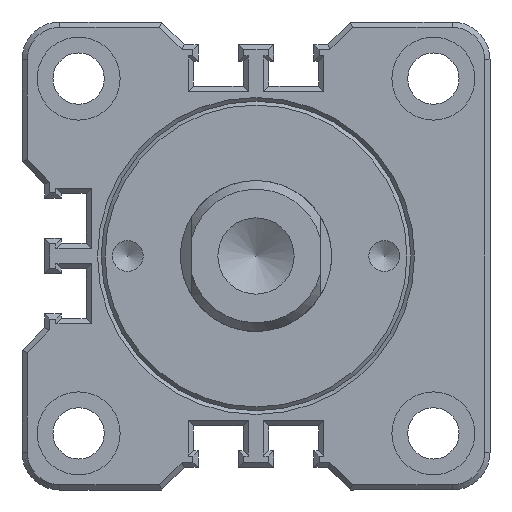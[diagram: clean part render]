
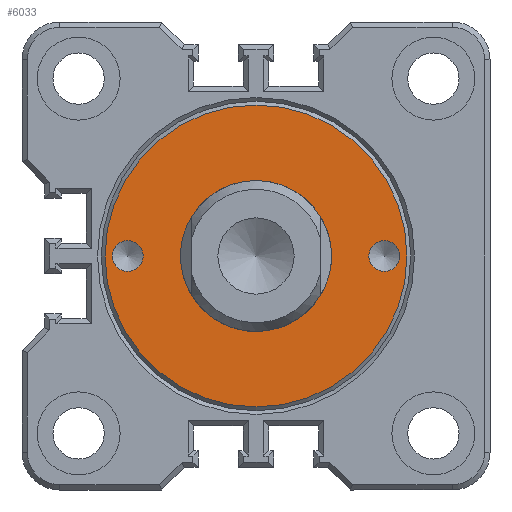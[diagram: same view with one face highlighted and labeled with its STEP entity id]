
A CAD part, front view. The second image highlights one B-rep face of the part: STEP entity #6033.
In plain terms, the highlighted planar face has unit normal (0, -1, 0).
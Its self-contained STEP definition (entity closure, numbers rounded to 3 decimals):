
#1050=PLANE('',#6326);
#1336=ORIENTED_EDGE('',*,*,#2459,.T.);
#1337=ORIENTED_EDGE('',*,*,#2458,.F.);
#1338=ORIENTED_EDGE('',*,*,#2457,.T.);
#1339=ORIENTED_EDGE('',*,*,#2472,.T.);
#2457=EDGE_CURVE('',#3038,#3038,#3388,.T.);
#2458=EDGE_CURVE('',#3039,#3039,#3389,.T.);
#2459=EDGE_CURVE('',#3040,#3040,#3390,.T.);
#2472=EDGE_CURVE('',#3047,#3047,#3391,.T.);
#3038=VERTEX_POINT('',#7859);
#3039=VERTEX_POINT('',#7862);
#3040=VERTEX_POINT('',#7865);
#3047=VERTEX_POINT('',#8000);
#3388=CIRCLE('',#6321,2.05);
#3389=CIRCLE('',#6323,10.);
#3390=CIRCLE('',#6325,2.05);
#3391=CIRCLE('',#6327,20.);
#3475=EDGE_LOOP('',(#1336));
#3476=EDGE_LOOP('',(#1337));
#3477=EDGE_LOOP('',(#1338));
#3478=EDGE_LOOP('',(#1339));
#3797=FACE_BOUND('',#3475,.T.);
#3798=FACE_BOUND('',#3476,.T.);
#3799=FACE_BOUND('',#3477,.T.);
#3800=FACE_BOUND('',#3478,.T.);
#6033=ADVANCED_FACE('',(#3797,#3798,#3799,#3800),#1050,.T.);
#6321=AXIS2_PLACEMENT_3D('',#7858,#6702,#6703);
#6323=AXIS2_PLACEMENT_3D('',#7861,#6706,#6707);
#6325=AXIS2_PLACEMENT_3D('',#7864,#6710,#6711);
#6326=AXIS2_PLACEMENT_3D('',#7998,#6718,#6719);
#6327=AXIS2_PLACEMENT_3D('',#7999,#6720,#6721);
#6702=DIRECTION('',(0.,1.,0.));
#6703=DIRECTION('',(0.,0.,-1.));
#6706=DIRECTION('',(0.,-1.,0.));
#6707=DIRECTION('',(1.,0.,0.));
#6710=DIRECTION('',(0.,1.,0.));
#6711=DIRECTION('',(0.,0.,-1.));
#6718=DIRECTION('',(0.,-1.,0.));
#6719=DIRECTION('',(1.,0.,0.));
#6720=DIRECTION('',(0.,-1.,0.));
#6721=DIRECTION('',(0.,0.,-1.));
#7858=CARTESIAN_POINT('',(-17.,0.,0.));
#7859=CARTESIAN_POINT('',(-17.,0.,-2.05));
#7861=CARTESIAN_POINT('',(0.,0.,0.));
#7862=CARTESIAN_POINT('',(10.,0.,0.));
#7864=CARTESIAN_POINT('',(17.,0.,0.));
#7865=CARTESIAN_POINT('',(17.,0.,-2.05));
#7998=CARTESIAN_POINT('',(-26.,0.,26.));
#7999=CARTESIAN_POINT('',(0.,0.,0.));
#8000=CARTESIAN_POINT('',(0.,0.,-20.));
